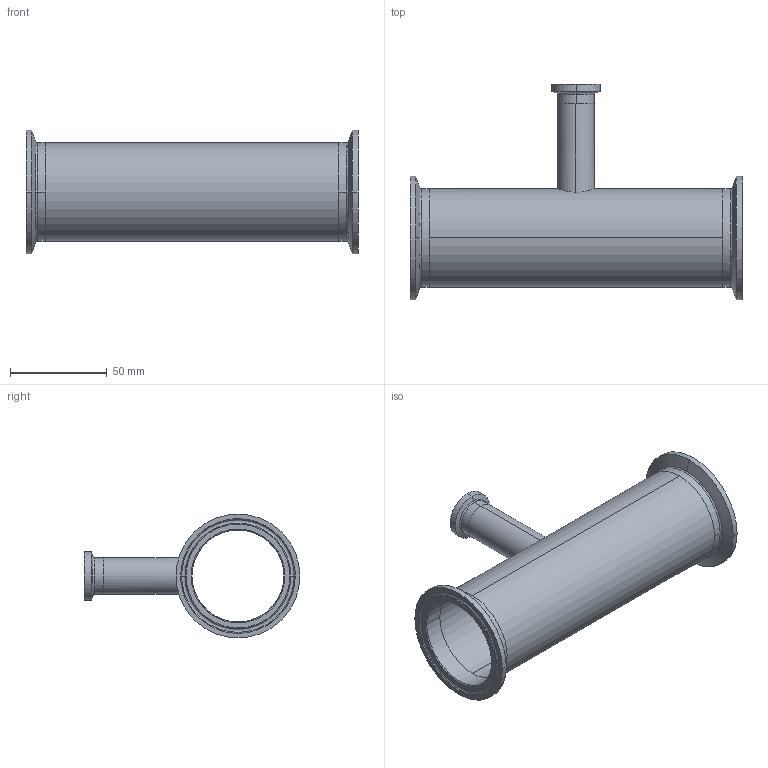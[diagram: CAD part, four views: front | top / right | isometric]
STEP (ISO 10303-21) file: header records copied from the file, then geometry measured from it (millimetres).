
FILE_DESCRIPTION (( 'STEP AP214' ), '1' );
FILE_NAME ('TEG7R6L2.0x.75-...STEP', '2016-05-24T06:33:29', ( 'eran' ), ( '' ), 'SwSTEP 2.0', 'SolidWorks 2016', '' );
FILE_SCHEMA (( 'AUTOMOTIVE_DESIGN' ));
Length unit declared in the file: millimetre
Products named in the file (1): TEG7R6L2.0x.75-..
Bounding box: 171.4 x 111.35 x 63.91 mm (x, y, z)
Volume: 57848 mm3; surface area: 65274.9 mm2
Topology: 4 solids, 4 shells, 84 faces, 198 edges, 126 vertices
Faces by surface type: cylinder 28, bspline 28, cone 16, plane 12
Entity records: 4131 total; most frequent: CARTESIAN_POINT 2145, DIRECTION 426, ORIENTED_EDGE 396, EDGE_CURVE 198, AXIS2_PLACEMENT_3D 191, CIRCLE 134, VERTEX_POINT 126, EDGE_LOOP 98
